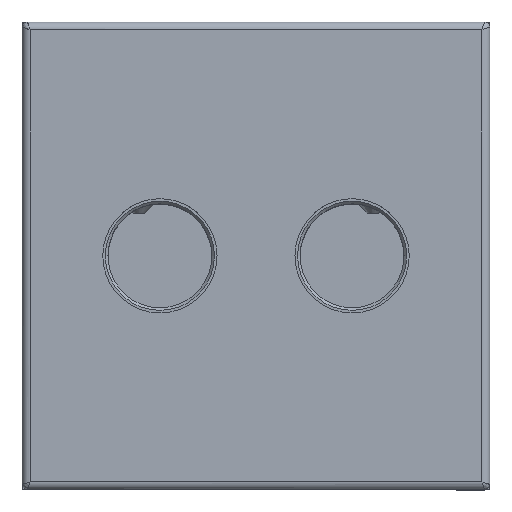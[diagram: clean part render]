
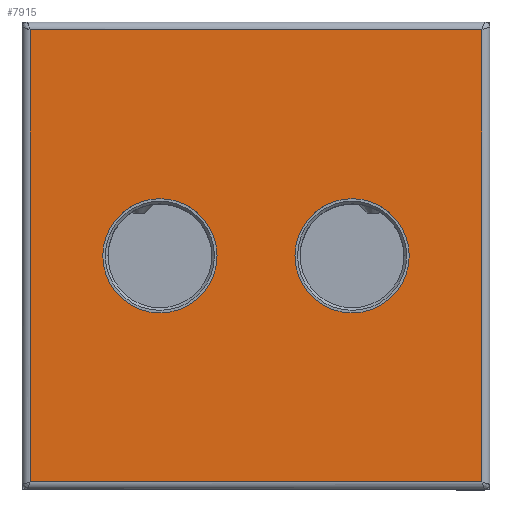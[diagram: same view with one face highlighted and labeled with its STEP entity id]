
A CAD part, top view. The second image highlights one B-rep face of the part: STEP entity #7915.
In plain terms, the highlighted planar face has unit normal (0, 0, 1) as drawn and (0, 0, -1) by its records, which use the part's own axes.
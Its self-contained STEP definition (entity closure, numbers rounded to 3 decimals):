
#7274=CARTESIAN_POINT('',(29.5,0.,0.0));
#7275=VERTEX_POINT('',#7274);
#7276=CARTESIAN_POINT('',(18.5,0.0,0.0));
#7277=DIRECTION('',(0.0,0.0,1.0));
#7278=DIRECTION('',(-1.0,0.0,0.0));
#7279=AXIS2_PLACEMENT_3D('',#7276,#7277,#7278);
#7280=CIRCLE('',#7279,11.0);
#7281=EDGE_CURVE('',#7275,#7275,#7280,.T.);
#7302=CARTESIAN_POINT('',(-7.5,0.,0.0));
#7303=VERTEX_POINT('',#7302);
#7304=CARTESIAN_POINT('',(-18.5,0.0,0.0));
#7305=DIRECTION('',(0.0,0.0,1.0));
#7306=DIRECTION('',(-1.0,0.0,0.0));
#7307=AXIS2_PLACEMENT_3D('',#7304,#7305,#7306);
#7308=CIRCLE('',#7307,11.0);
#7309=EDGE_CURVE('',#7303,#7303,#7308,.T.);
#7392=CARTESIAN_POINT('',(-43.5,43.5,0.));
#7393=VERTEX_POINT('',#7392);
#7487=CARTESIAN_POINT('',(43.5,43.5,0.));
#7488=VERTEX_POINT('',#7487);
#7528=CARTESIAN_POINT('',(43.5,43.5,0.0));
#7529=DIRECTION('',(-1.0,0.0,0.0));
#7530=VECTOR('',#7529,87.);
#7531=LINE('',#7528,#7530);
#7532=EDGE_CURVE('',#7488,#7393,#7531,.T.);
#7604=CARTESIAN_POINT('',(-43.5,-43.5,0.0));
#7605=VERTEX_POINT('',#7604);
#7699=CARTESIAN_POINT('',(43.5,-43.5,0.0));
#7700=VERTEX_POINT('',#7699);
#7740=CARTESIAN_POINT('',(43.5,-43.5,0.0));
#7741=DIRECTION('',(0.0,1.0,0.0));
#7742=VECTOR('',#7741,87.);
#7743=LINE('',#7740,#7742);
#7744=EDGE_CURVE('',#7700,#7488,#7743,.T.);
#7755=CARTESIAN_POINT('',(-43.5,-43.5,0.0));
#7756=DIRECTION('',(1.0,0.0,0.0));
#7757=VECTOR('',#7756,87.);
#7758=LINE('',#7755,#7757);
#7759=EDGE_CURVE('',#7605,#7700,#7758,.T.);
#7777=CARTESIAN_POINT('',(-43.5,43.5,0.0));
#7778=DIRECTION('',(0.0,-1.0,0.0));
#7779=VECTOR('',#7778,87.0);
#7780=LINE('',#7777,#7779);
#7781=EDGE_CURVE('',#7393,#7605,#7780,.T.);
#7898=CARTESIAN_POINT('',(0.,0.,0.0));
#7899=DIRECTION('',(0.0,0.0,1.0));
#7900=DIRECTION('',(1.0,0.0,0.0));
#7901=AXIS2_PLACEMENT_3D('',#7898,#7899,#7900);
#7902=PLANE('',#7901);
#7903=ORIENTED_EDGE('',*,*,#7532,.F.);
#7904=ORIENTED_EDGE('',*,*,#7744,.F.);
#7905=ORIENTED_EDGE('',*,*,#7759,.F.);
#7906=ORIENTED_EDGE('',*,*,#7781,.F.);
#7907=EDGE_LOOP('',(#7903,#7904,#7905,#7906));
#7908=FACE_OUTER_BOUND('',#7907,.T.);
#7909=ORIENTED_EDGE('',*,*,#7281,.T.);
#7910=EDGE_LOOP('',(#7909));
#7911=FACE_BOUND('',#7910,.T.);
#7912=ORIENTED_EDGE('',*,*,#7309,.T.);
#7913=EDGE_LOOP('',(#7912));
#7914=FACE_BOUND('',#7913,.T.);
#7915=ADVANCED_FACE('',(#7908,#7911,#7914),#7902,.F.);
